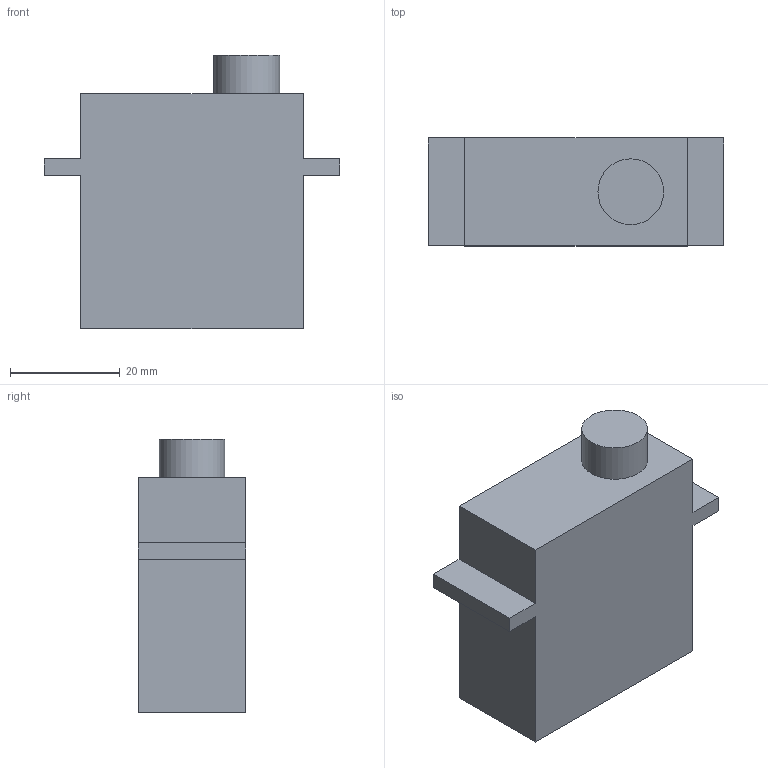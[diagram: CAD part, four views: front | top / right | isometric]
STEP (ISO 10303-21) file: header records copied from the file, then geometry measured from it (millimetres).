
FILE_DESCRIPTION(('Open CASCADE Model'),'2;1');
FILE_NAME('Open CASCADE Shape Model','2026-09-10T23:36:52',('Author'),( 'Open CASCADE'),'Open CASCADE STEP processor 7.9','Open CASCADE 7.9' ,'Unknown');
FILE_SCHEMA(('AUTOMOTIVE_DESIGN { 1 0 10303 214 1 1 1 1 }'));
Length unit declared in the file: millimetre
Products named in the file (1): Open CASCADE STEP translator 7.9 29
Bounding box: 54 x 19.7 x 49.9 mm (x, y, z)
Volume: 35974.5 mm3; surface area: 7653.6 mm2
Topology: 1 solids, 1 shells, 16 faces, 39 edges, 26 vertices
Faces by surface type: plane 15, cylinder 1
Full cylindrical faces by diameter (mm): 12 x1
Entity records: 974 total; most frequent: CARTESIAN_POINT 168, DIRECTION 145, LINE 105, VECTOR 105, ORIENTED_EDGE 78, PCURVE 78, DEFINITIONAL_REPRESENTATION 78, EDGE_CURVE 39
